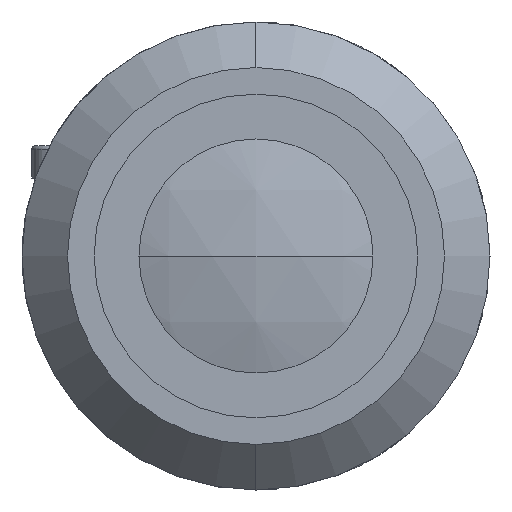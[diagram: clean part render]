
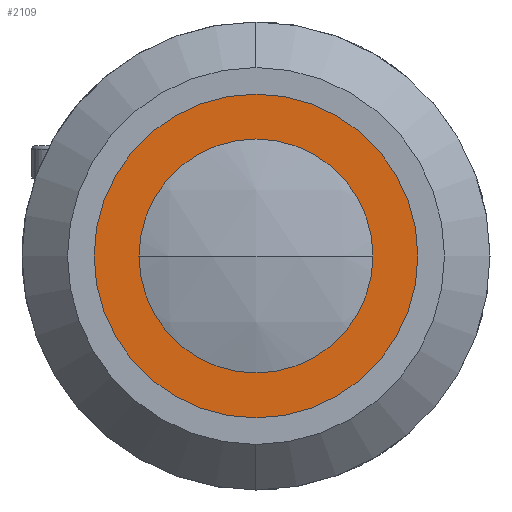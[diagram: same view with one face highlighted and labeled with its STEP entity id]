
A CAD part, left-side view. The second image highlights one B-rep face of the part: STEP entity #2109.
In plain terms, the highlighted planar face has unit normal (-1, 0, 0).
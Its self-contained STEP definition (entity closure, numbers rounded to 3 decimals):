
#24 = FACE_BOUND ( 'NONE', #2801, .T. ) ;
#43 = ORIENTED_EDGE ( 'NONE', *, *, #620, .F. ) ;
#48 = CARTESIAN_POINT ( 'NONE',  ( 3.5, 0., 0. ) ) ;
#88 = ORIENTED_EDGE ( 'NONE', *, *, #2703, .F. ) ;
#133 = EDGE_LOOP ( 'NONE', ( #134, #169 ) ) ;
#134 = ORIENTED_EDGE ( 'NONE', *, *, #1622, .T. ) ;
#169 = ORIENTED_EDGE ( 'NONE', *, *, #2544, .T. ) ;
#326 = CARTESIAN_POINT ( 'NONE',  ( 3.5, 13.2, 0. ) ) ;
#339 = CARTESIAN_POINT ( 'NONE',  ( 3.5, 0., 0. ) ) ;
#354 = AXIS2_PLACEMENT_3D ( 'NONE', #339, #2330, #645 ) ;
#401 = CARTESIAN_POINT ( 'NONE',  ( 3.5, 0., 9. ) ) ;
#515 = VERTEX_POINT ( 'NONE', #1635 ) ;
#556 = CIRCLE ( 'NONE', #2920, 9. ) ;
#620 = EDGE_CURVE ( 'NONE', #764, #1645, #2442, .T. ) ;
#645 = DIRECTION ( 'NONE',  ( 0., 0., 1. ) ) ;
#764 = VERTEX_POINT ( 'NONE', #401 ) ;
#846 = AXIS2_PLACEMENT_3D ( 'NONE', #48, #2018, #2326 ) ;
#1292 = DIRECTION ( 'NONE',  ( -1., 0., 0. ) ) ;
#1376 = CARTESIAN_POINT ( 'NONE',  ( 3.5, 0., 0. ) ) ;
#1544 = CIRCLE ( 'NONE', #354, 13.2 ) ;
#1622 = EDGE_CURVE ( 'NONE', #515, #2044, #1544, .T. ) ;
#1635 = CARTESIAN_POINT ( 'NONE',  ( 3.5, 0., 13.2 ) ) ;
#1645 = VERTEX_POINT ( 'NONE', #3163 ) ;
#1663 = DIRECTION ( 'NONE',  ( 0., 0., 1. ) ) ;
#1744 = CIRCLE ( 'NONE', #2812, 13.2 ) ;
#1748 = DIRECTION ( 'NONE',  ( 0., 0., -1. ) ) ;
#2018 = DIRECTION ( 'NONE',  ( -1., 0., 0. ) ) ;
#2044 = VERTEX_POINT ( 'NONE', #2826 ) ;
#2109 = ADVANCED_FACE ( 'NONE', ( #24, #2259 ), #3150, .F. ) ;
#2259 = FACE_OUTER_BOUND ( 'NONE', #133, .T. ) ;
#2326 = DIRECTION ( 'NONE',  ( 0., 0., 1. ) ) ;
#2330 = DIRECTION ( 'NONE',  ( -1., 0., 0. ) ) ;
#2442 = CIRCLE ( 'NONE', #846, 9. ) ;
#2544 = EDGE_CURVE ( 'NONE', #2044, #515, #1744, .T. ) ;
#2703 = EDGE_CURVE ( 'NONE', #1645, #764, #556, .T. ) ;
#2801 = EDGE_LOOP ( 'NONE', ( #43, #88 ) ) ;
#2812 = AXIS2_PLACEMENT_3D ( 'NONE', #2986, #1292, #3252 ) ;
#2826 = CARTESIAN_POINT ( 'NONE',  ( 3.5, 0., -13.2 ) ) ;
#2920 = AXIS2_PLACEMENT_3D ( 'NONE', #1376, #3325, #1663 ) ;
#2986 = CARTESIAN_POINT ( 'NONE',  ( 3.5, 0., 0. ) ) ;
#3150 = PLANE ( 'NONE',  #3475 ) ;
#3163 = CARTESIAN_POINT ( 'NONE',  ( 3.5, 0., -9. ) ) ;
#3252 = DIRECTION ( 'NONE',  ( 0., 0., 1. ) ) ;
#3325 = DIRECTION ( 'NONE',  ( -1., 0., 0. ) ) ;
#3413 = DIRECTION ( 'NONE',  ( 1., 0., 0. ) ) ;
#3475 = AXIS2_PLACEMENT_3D ( 'NONE', #326, #3413, #1748 ) ;
